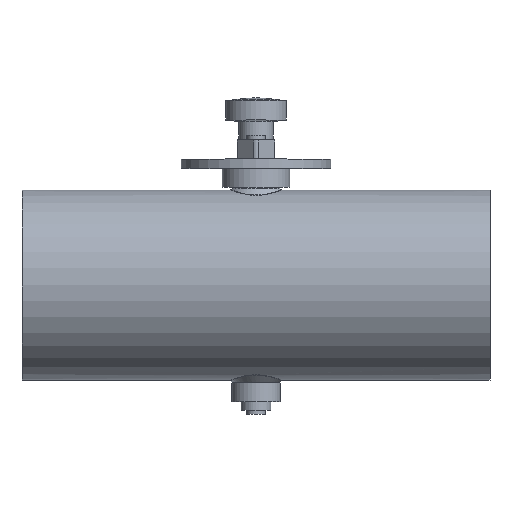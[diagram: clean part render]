
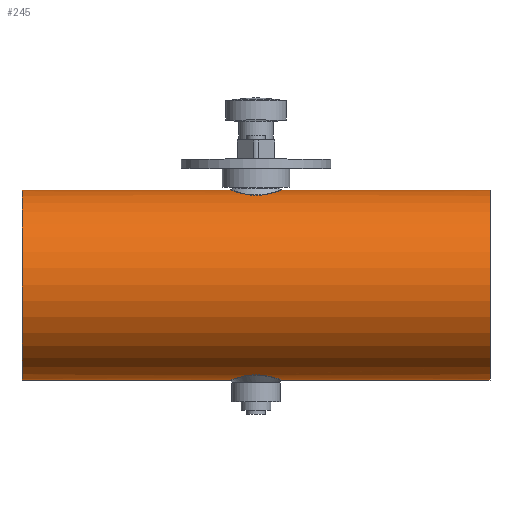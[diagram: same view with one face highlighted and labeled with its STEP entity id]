
A CAD part, top view. The second image highlights one B-rep face of the part: STEP entity #245.
In plain terms, the highlighted cylindrical face has radius 50.8 mm (diameter 101.6 mm), a full revolution.
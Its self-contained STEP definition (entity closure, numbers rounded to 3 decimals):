
#109=B_SPLINE_CURVE_WITH_KNOTS('',3,(#2011,#2012,#2013,#2014,#2015,#2016,
#2017,#2018,#2019,#2020,#2021,#2022,#2023,#2024,#2025,#2026,#2027,#2028,
#2029,#2030,#2031,#2032,#2033,#2034),.UNSPECIFIED.,.T.,.F.,(2,2,2,2,2,2,
2,2,2,2,2,2,2,2),(-0.063,0.,0.063,0.125,0.25,0.375,
0.438,0.5,0.625,0.75,0.875,0.938,1.,1.063),.UNSPECIFIED.);
#110=B_SPLINE_CURVE_WITH_KNOTS('',3,(#2036,#2037,#2038,#2039,#2040,#2041,
#2042,#2043,#2044,#2045,#2046,#2047,#2048,#2049,#2050,#2051,#2052,#2053,
#2054,#2055,#2056,#2057,#2058,#2059,#2060,#2061),.UNSPECIFIED.,.T.,.F.,(2,
2,2,2,2,2,2,2,2,2,2,2,2,2,2),(-0.062,0.,0.063,
0.125,0.25,0.375,0.438,0.5,
0.563,0.625,0.75,0.875,0.938,1.,1.063),.UNSPECIFIED.);
#155=CYLINDRICAL_SURFACE('',#1388,50.8);
#245=ADVANCED_FACE('',(#471,#472,#473,#474),#155,.T.);
#369=CIRCLE('',#1382,50.8);
#371=CIRCLE('',#1385,50.8);
#471=FACE_BOUND('',#615,.T.);
#472=FACE_BOUND('',#616,.T.);
#473=FACE_BOUND('',#617,.T.);
#474=FACE_BOUND('',#618,.T.);
#615=EDGE_LOOP('',(#831));
#616=EDGE_LOOP('',(#832));
#617=EDGE_LOOP('',(#833));
#618=EDGE_LOOP('',(#834));
#831=ORIENTED_EDGE('',*,*,#1143,.T.);
#832=ORIENTED_EDGE('',*,*,#1144,.T.);
#833=ORIENTED_EDGE('',*,*,#1139,.T.);
#834=ORIENTED_EDGE('',*,*,#1141,.T.);
#1017=VERTEX_POINT('',#2002);
#1019=VERTEX_POINT('',#2007);
#1021=VERTEX_POINT('',#2035);
#1022=VERTEX_POINT('',#2062);
#1139=EDGE_CURVE('',#1017,#1017,#369,.T.);
#1141=EDGE_CURVE('',#1019,#1019,#371,.T.);
#1143=EDGE_CURVE('',#1021,#1021,#109,.T.);
#1144=EDGE_CURVE('',#1022,#1022,#110,.T.);
#1382=AXIS2_PLACEMENT_3D('',#2001,#1646,#1647);
#1385=AXIS2_PLACEMENT_3D('',#2006,#1652,#1653);
#1388=AXIS2_PLACEMENT_3D('',#2063,#1658,#1659);
#1646=DIRECTION('',(-1.,0.,0.));
#1647=DIRECTION('',(0.,0.,1.));
#1652=DIRECTION('',(1.,0.,0.));
#1653=DIRECTION('',(0.,0.,-1.));
#1658=DIRECTION('',(1.,0.,0.));
#1659=DIRECTION('',(0.,0.,-1.));
#2001=CARTESIAN_POINT('',(125.,-8.3,125.));
#2002=CARTESIAN_POINT('',(125.,-8.3,175.8));
#2006=CARTESIAN_POINT('',(-125.,-8.3,125.));
#2007=CARTESIAN_POINT('',(-125.,-8.3,74.2));
#2011=CARTESIAN_POINT('',(-0.641,-56.186,108.034));
#2012=CARTESIAN_POINT('',(-4.642,-56.512,108.986));
#2013=CARTESIAN_POINT('',(-6.468,-56.847,109.98));
#2014=CARTESIAN_POINT('',(-9.553,-57.571,112.56));
#2015=CARTESIAN_POINT('',(-10.827,-57.959,114.145));
#2016=CARTESIAN_POINT('',(-13.777,-58.917,119.411));
#2017=CARTESIAN_POINT('',(-14.546,-59.241,123.656));
#2018=CARTESIAN_POINT('',(-13.401,-58.819,131.681));
#2019=CARTESIAN_POINT('',(-11.513,-58.078,135.52));
#2020=CARTESIAN_POINT('',(-7.107,-56.98,139.59));
#2021=CARTESIAN_POINT('',(-5.35,-56.624,140.679));
#2022=CARTESIAN_POINT('',(-1.462,-56.217,141.883));
#2023=CARTESIAN_POINT('',(0.658,-56.187,141.964));
#2024=CARTESIAN_POINT('',(6.633,-56.676,140.537));
#2025=CARTESIAN_POINT('',(9.833,-57.636,137.623));
#2026=CARTESIAN_POINT('',(13.773,-58.916,130.604));
#2027=CARTESIAN_POINT('',(14.545,-59.241,126.368));
#2028=CARTESIAN_POINT('',(13.406,-58.821,118.329));
#2029=CARTESIAN_POINT('',(11.52,-58.081,114.494));
#2030=CARTESIAN_POINT('',(7.126,-56.984,110.424));
#2031=CARTESIAN_POINT('',(5.371,-56.627,109.329));
#2032=CARTESIAN_POINT('',(1.456,-56.216,108.114));
#2033=CARTESIAN_POINT('',(-0.641,-56.186,108.034));
#2034=CARTESIAN_POINT('',(-4.642,-56.512,108.986));
#2035=CARTESIAN_POINT('',(-2.641,-56.349,108.51));
#2036=CARTESIAN_POINT('',(-4.643,39.912,108.986));
#2037=CARTESIAN_POINT('',(-0.639,39.586,108.033));
#2038=CARTESIAN_POINT('',(1.467,39.617,108.117));
#2039=CARTESIAN_POINT('',(5.359,40.025,109.325));
#2040=CARTESIAN_POINT('',(7.129,40.385,110.426));
#2041=CARTESIAN_POINT('',(11.529,41.484,114.504));
#2042=CARTESIAN_POINT('',(13.415,42.224,118.36));
#2043=CARTESIAN_POINT('',(14.542,42.64,126.377));
#2044=CARTESIAN_POINT('',(13.758,42.311,130.637));
#2045=CARTESIAN_POINT('',(10.814,41.355,135.871));
#2046=CARTESIAN_POINT('',(9.527,40.964,137.467));
#2047=CARTESIAN_POINT('',(6.453,40.245,140.028));
#2048=CARTESIAN_POINT('',(4.6,39.908,141.028));
#2049=CARTESIAN_POINT('',(0.649,39.587,141.961));
#2050=CARTESIAN_POINT('',(-1.48,39.617,141.881));
#2051=CARTESIAN_POINT('',(-5.371,40.027,140.669));
#2052=CARTESIAN_POINT('',(-7.124,40.384,139.578));
#2053=CARTESIAN_POINT('',(-11.526,41.483,135.5));
#2054=CARTESIAN_POINT('',(-13.409,42.222,131.678));
#2055=CARTESIAN_POINT('',(-14.548,42.642,123.589));
#2056=CARTESIAN_POINT('',(-13.777,42.317,119.4));
#2057=CARTESIAN_POINT('',(-10.809,41.353,114.119));
#2058=CARTESIAN_POINT('',(-9.548,40.97,112.554));
#2059=CARTESIAN_POINT('',(-6.46,40.246,109.975));
#2060=CARTESIAN_POINT('',(-4.643,39.912,108.986));
#2061=CARTESIAN_POINT('',(-0.639,39.586,108.033));
#2062=CARTESIAN_POINT('',(-2.641,39.749,108.51));
#2063=CARTESIAN_POINT('',(-125.,-8.3,125.));
